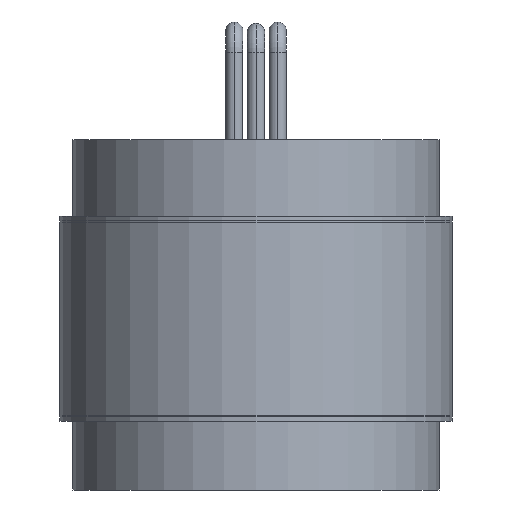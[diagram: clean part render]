
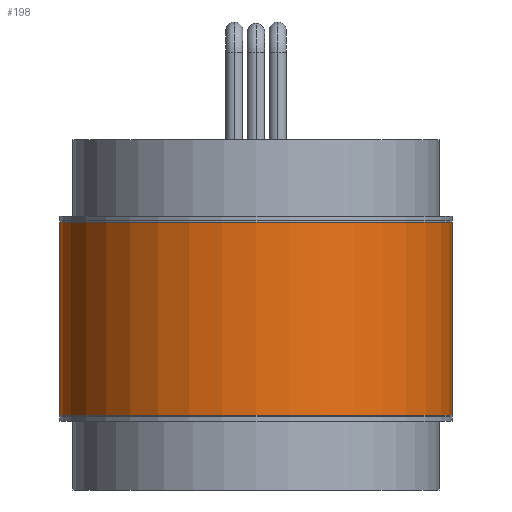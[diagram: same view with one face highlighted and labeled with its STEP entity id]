
A CAD part, front view. The second image highlights one B-rep face of the part: STEP entity #198.
In plain terms, the highlighted cylindrical face has radius 22.86 mm (diameter 45.72 mm), a partial arc.
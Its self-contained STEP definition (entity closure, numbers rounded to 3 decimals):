
#13 = AXIS2_PLACEMENT_3D ( 'NONE', #1143, #1115, #1437 ) ;
#26 = EDGE_CURVE ( 'NONE', #895, #1575, #1390, .T. ) ;
#46 = LINE ( 'NONE', #766, #1026 ) ;
#198 = ADVANCED_FACE ( 'NONE', ( #1583 ), #389, .T. ) ;
#284 = AXIS2_PLACEMENT_3D ( 'NONE', #1186, #1936, #653 ) ;
#359 = VECTOR ( 'NONE', #1773, 1000. ) ;
#389 = CYLINDRICAL_SURFACE ( 'NONE', #827, 22.86 ) ;
#455 = VERTEX_POINT ( 'NONE', #885 ) ;
#463 = CARTESIAN_POINT ( 'NONE',  ( 22.86, 0., -11.252 ) ) ;
#653 = DIRECTION ( 'NONE',  ( 1., 0., 0. ) ) ;
#700 = EDGE_CURVE ( 'NONE', #1164, #1575, #1876, .T. ) ;
#702 = EDGE_CURVE ( 'NONE', #455, #895, #1635, .T. ) ;
#766 = CARTESIAN_POINT ( 'NONE',  ( -22.86, 0., 11.252 ) ) ;
#827 = AXIS2_PLACEMENT_3D ( 'NONE', #983, #847, #1612 ) ;
#847 = DIRECTION ( 'NONE',  ( 0., 0., -1. ) ) ;
#864 = ORIENTED_EDGE ( 'NONE', *, *, #700, .T. ) ;
#885 = CARTESIAN_POINT ( 'NONE',  ( -22.86, 0., 11.252 ) ) ;
#895 = VERTEX_POINT ( 'NONE', #1064 ) ;
#983 = CARTESIAN_POINT ( 'NONE',  ( 0., 0., 11.252 ) ) ;
#1026 = VECTOR ( 'NONE', #1912, 1000. ) ;
#1049 = ORIENTED_EDGE ( 'NONE', *, *, #702, .F. ) ;
#1056 = EDGE_CURVE ( 'NONE', #455, #1164, #46, .T. ) ;
#1064 = CARTESIAN_POINT ( 'NONE',  ( 22.86, 0., 11.252 ) ) ;
#1115 = DIRECTION ( 'NONE',  ( 0., 0., 1. ) ) ;
#1143 = CARTESIAN_POINT ( 'NONE',  ( 0., 0., -11.252 ) ) ;
#1164 = VERTEX_POINT ( 'NONE', #1243 ) ;
#1186 = CARTESIAN_POINT ( 'NONE',  ( 0., 0., 11.252 ) ) ;
#1243 = CARTESIAN_POINT ( 'NONE',  ( -22.86, 0., -11.252 ) ) ;
#1390 = LINE ( 'NONE', #2090, #359 ) ;
#1437 = DIRECTION ( 'NONE',  ( 1., 0., 0. ) ) ;
#1488 = ORIENTED_EDGE ( 'NONE', *, *, #1056, .T. ) ;
#1575 = VERTEX_POINT ( 'NONE', #463 ) ;
#1583 = FACE_OUTER_BOUND ( 'NONE', #1621, .T. ) ;
#1612 = DIRECTION ( 'NONE',  ( -1., 0., 0. ) ) ;
#1621 = EDGE_LOOP ( 'NONE', ( #1911, #1049, #1488, #864 ) ) ;
#1635 = CIRCLE ( 'NONE', #284, 22.86 ) ;
#1773 = DIRECTION ( 'NONE',  ( 0., 0., -1. ) ) ;
#1876 = CIRCLE ( 'NONE', #13, 22.86 ) ;
#1911 = ORIENTED_EDGE ( 'NONE', *, *, #26, .F. ) ;
#1912 = DIRECTION ( 'NONE',  ( 0., 0., -1. ) ) ;
#1936 = DIRECTION ( 'NONE',  ( 0., 0., 1. ) ) ;
#2090 = CARTESIAN_POINT ( 'NONE',  ( 22.86, 0., 11.252 ) ) ;
